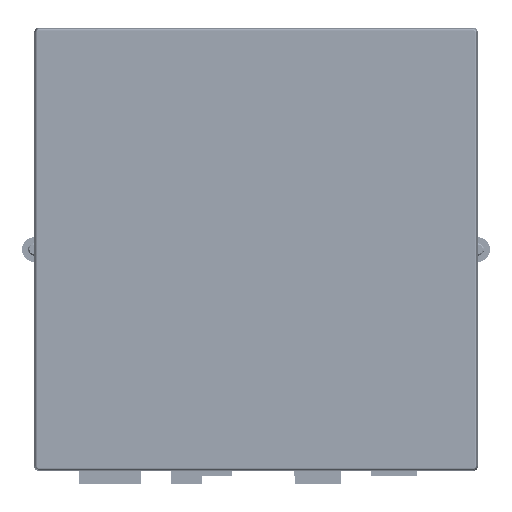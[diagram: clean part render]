
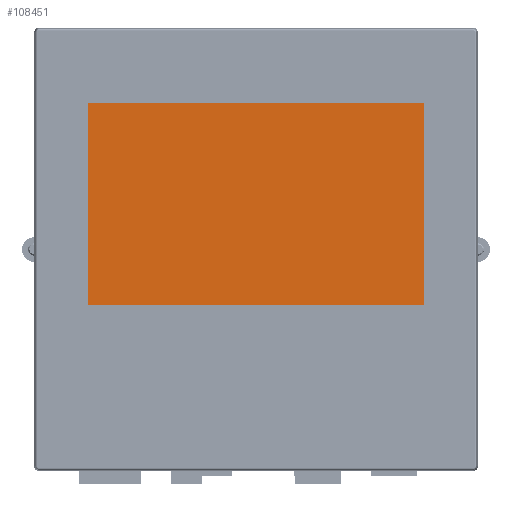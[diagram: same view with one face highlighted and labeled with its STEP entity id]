
A CAD part, top view. The second image highlights one B-rep face of the part: STEP entity #108451.
In plain terms, the highlighted planar face has unit normal (0, 0, 1).
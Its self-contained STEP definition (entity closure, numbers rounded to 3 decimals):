
#5602 = VERTEX_POINT ( 'NONE', #258389 ) ;
#13106 = VERTEX_POINT ( 'NONE', #232577 ) ;
#30518 = ORIENTED_EDGE ( 'NONE', *, *, #58018, .T. ) ;
#37978 = VECTOR ( 'NONE', #320960, 1000. ) ;
#39924 = VERTEX_POINT ( 'NONE', #92126 ) ;
#50856 = LINE ( 'NONE', #110877, #132391 ) ;
#57939 = CARTESIAN_POINT ( 'NONE',  ( -9.526, 8.731, 149. ) ) ;
#58018 = EDGE_CURVE ( 'NONE', #39924, #205518, #360037, .T. ) ;
#69732 = EDGE_CURVE ( 'NONE', #205518, #13106, #273352, .T. ) ;
#75027 = CARTESIAN_POINT ( 'NONE',  ( -64.149, -9.411, 149. ) ) ;
#88843 = DIRECTION ( 'NONE',  ( 1., 0., 0. ) ) ;
#92126 = CARTESIAN_POINT ( 'NONE',  ( -64.149, 56.33, 149. ) ) ;
#108451 = ADVANCED_FACE ( 'NONE', ( #291918 ), #118289, .T. ) ;
#110877 = CARTESIAN_POINT ( 'NONE',  ( -64.149, 56.33, 149. ) ) ;
#118289 = PLANE ( 'NONE',  #163544 ) ;
#132391 = VECTOR ( 'NONE', #265379, 1000. ) ;
#163544 = AXIS2_PLACEMENT_3D ( 'NONE', #57939, #272786, #88843 ) ;
#172452 = EDGE_CURVE ( 'NONE', #5602, #39924, #50856, .T. ) ;
#176947 = CARTESIAN_POINT ( 'NONE',  ( -64.149, 56.33, 149. ) ) ;
#205518 = VERTEX_POINT ( 'NONE', #249432 ) ;
#220343 = VECTOR ( 'NONE', #288806, 1000. ) ;
#220493 = EDGE_LOOP ( 'NONE', ( #30518, #233253, #363238, #273451 ) ) ;
#232577 = CARTESIAN_POINT ( 'NONE',  ( 45.027, -9.411, 149. ) ) ;
#233253 = ORIENTED_EDGE ( 'NONE', *, *, #69732, .T. ) ;
#239630 = LINE ( 'NONE', #317076, #220343 ) ;
#249432 = CARTESIAN_POINT ( 'NONE',  ( -64.149, -9.411, 149. ) ) ;
#258389 = CARTESIAN_POINT ( 'NONE',  ( 45.027, 56.33, 149. ) ) ;
#265379 = DIRECTION ( 'NONE',  ( -1., 0., 0. ) ) ;
#269509 = DIRECTION ( 'NONE',  ( 0., -1., 0. ) ) ;
#272786 = DIRECTION ( 'NONE',  ( 0., 0., 1. ) ) ;
#273352 = LINE ( 'NONE', #75027, #37978 ) ;
#273451 = ORIENTED_EDGE ( 'NONE', *, *, #172452, .T. ) ;
#278118 = VECTOR ( 'NONE', #269509, 1000. ) ;
#288806 = DIRECTION ( 'NONE',  ( 0., 1., 0. ) ) ;
#291918 = FACE_OUTER_BOUND ( 'NONE', #220493, .T. ) ;
#317076 = CARTESIAN_POINT ( 'NONE',  ( 45.027, 56.33, 149. ) ) ;
#320960 = DIRECTION ( 'NONE',  ( 1., 0., 0. ) ) ;
#360037 = LINE ( 'NONE', #176947, #278118 ) ;
#363238 = ORIENTED_EDGE ( 'NONE', *, *, #371998, .T. ) ;
#371998 = EDGE_CURVE ( 'NONE', #13106, #5602, #239630, .T. ) ;
